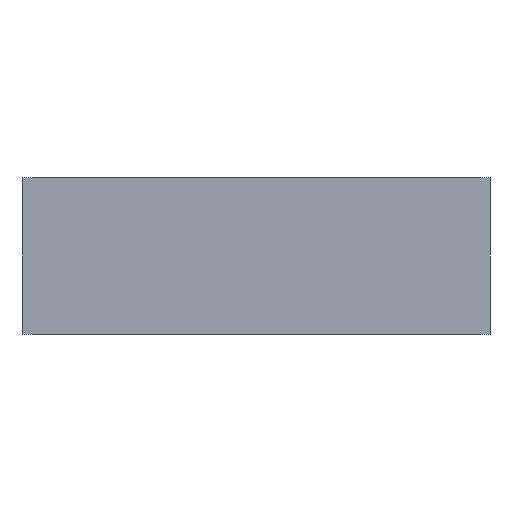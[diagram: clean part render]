
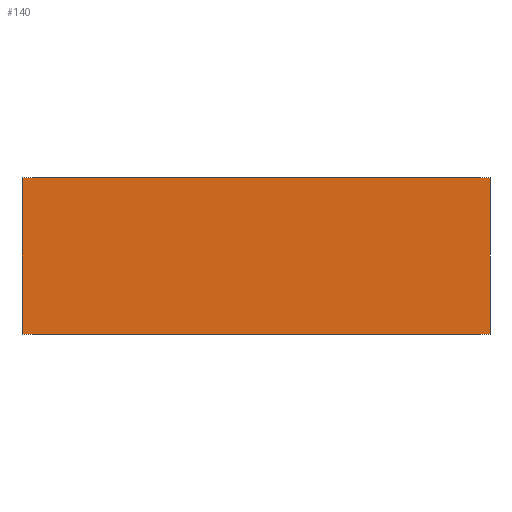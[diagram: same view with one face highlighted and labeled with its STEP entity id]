
A CAD part, front view. The second image highlights one B-rep face of the part: STEP entity #140.
In plain terms, the highlighted planar face has unit normal (0, -1, 0).
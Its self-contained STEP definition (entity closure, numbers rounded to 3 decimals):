
#6 = VECTOR ( 'NONE', #250, 1000. ) ;
#25 = EDGE_LOOP ( 'NONE', ( #37, #107, #31, #32 ) ) ;
#31 = ORIENTED_EDGE ( 'NONE', *, *, #198, .F. ) ;
#32 = ORIENTED_EDGE ( 'NONE', *, *, #207, .T. ) ;
#37 = ORIENTED_EDGE ( 'NONE', *, *, #174, .T. ) ;
#46 = LINE ( 'NONE', #255, #6 ) ;
#47 = LINE ( 'NONE', #251, #103 ) ;
#69 = VECTOR ( 'NONE', #321, 1000. ) ;
#76 = VECTOR ( 'NONE', #313, 1000. ) ;
#90 = FACE_OUTER_BOUND ( 'NONE', #25, .T. ) ;
#103 = VECTOR ( 'NONE', #248, 1000. ) ;
#107 = ORIENTED_EDGE ( 'NONE', *, *, #175, .F. ) ;
#119 = LINE ( 'NONE', #314, #76 ) ;
#126 = LINE ( 'NONE', #244, #69 ) ;
#140 = ADVANCED_FACE ( 'NONE', ( #90 ), #296, .F. ) ;
#146 = VERTEX_POINT ( 'NONE', #272 ) ;
#151 = VERTEX_POINT ( 'NONE', #269 ) ;
#156 = VERTEX_POINT ( 'NONE', #265 ) ;
#159 = VERTEX_POINT ( 'NONE', #263 ) ;
#174 = EDGE_CURVE ( 'NONE', #159, #156, #46, .T. ) ;
#175 = EDGE_CURVE ( 'NONE', #146, #156, #47, .T. ) ;
#184 = AXIS2_PLACEMENT_3D ( 'NONE', #293, #287, #286 ) ;
#198 = EDGE_CURVE ( 'NONE', #151, #146, #126, .T. ) ;
#207 = EDGE_CURVE ( 'NONE', #151, #159, #119, .T. ) ;
#244 = CARTESIAN_POINT ( 'NONE',  ( -179., 0., 120. ) ) ;
#248 = DIRECTION ( 'NONE',  ( 0., 0., -1. ) ) ;
#250 = DIRECTION ( 'NONE',  ( 1., 0., 0. ) ) ;
#251 = CARTESIAN_POINT ( 'NONE',  ( 179., 0., 120. ) ) ;
#255 = CARTESIAN_POINT ( 'NONE',  ( -179., 0., 0. ) ) ;
#263 = CARTESIAN_POINT ( 'NONE',  ( -179., 0., 0. ) ) ;
#265 = CARTESIAN_POINT ( 'NONE',  ( 179., 0., 0. ) ) ;
#269 = CARTESIAN_POINT ( 'NONE',  ( -179., 0., 120. ) ) ;
#272 = CARTESIAN_POINT ( 'NONE',  ( 179., 0., 120. ) ) ;
#286 = DIRECTION ( 'NONE',  ( -1., 0., 0. ) ) ;
#287 = DIRECTION ( 'NONE',  ( 0., 1., 0. ) ) ;
#293 = CARTESIAN_POINT ( 'NONE',  ( -179., 0., 120. ) ) ;
#296 = PLANE ( 'NONE',  #184 ) ;
#313 = DIRECTION ( 'NONE',  ( 0., 0., -1. ) ) ;
#314 = CARTESIAN_POINT ( 'NONE',  ( -179., 0., 120. ) ) ;
#321 = DIRECTION ( 'NONE',  ( 1., 0., 0. ) ) ;
